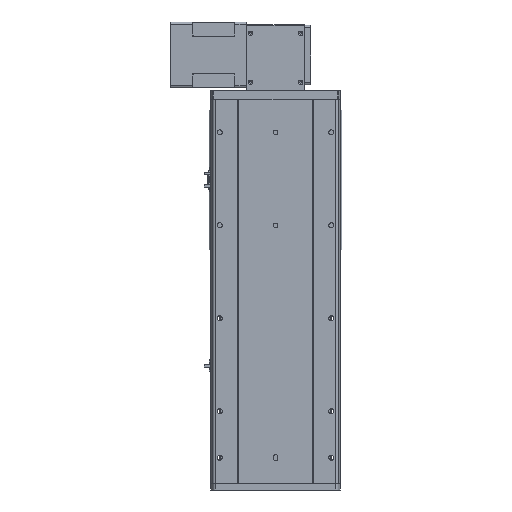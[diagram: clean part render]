
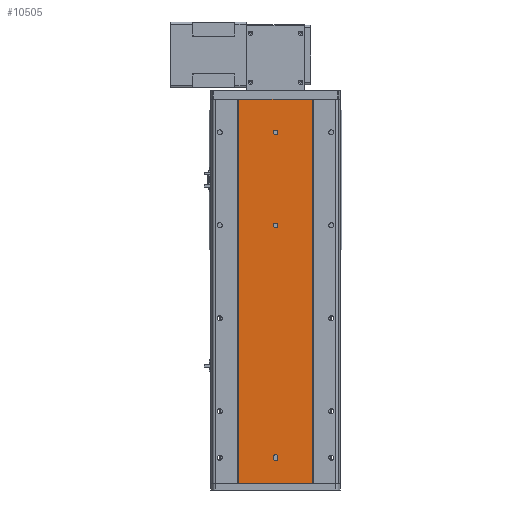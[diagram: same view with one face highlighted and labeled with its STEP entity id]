
A CAD part, front view. The second image highlights one B-rep face of the part: STEP entity #10505.
In plain terms, the highlighted planar face has unit normal (0, -1, 0).
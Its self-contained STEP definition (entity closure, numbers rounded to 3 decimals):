
#61 = AXIS2_PLACEMENT_3D ( 'NONE', #30333, #7291, #23535 ) ;
#295 = ORIENTED_EDGE ( 'NONE', *, *, #37023, .F. ) ;
#1404 = CIRCLE ( 'NONE', #36377, 5. ) ;
#1494 = EDGE_CURVE ( 'NONE', #33665, #7749, #16996, .T. ) ;
#1537 = VERTEX_POINT ( 'NONE', #2617 ) ;
#1868 = CIRCLE ( 'NONE', #61, 5. ) ;
#1980 = ORIENTED_EDGE ( 'NONE', *, *, #42317, .T. ) ;
#2617 = CARTESIAN_POINT ( 'NONE',  ( 79., 1.5, 0. ) ) ;
#2757 = DIRECTION ( 'NONE',  ( 1., 0., 0. ) ) ;
#3981 = VERTEX_POINT ( 'NONE', #22567 ) ;
#4000 = EDGE_CURVE ( 'NONE', #34968, #35473, #4157, .T. ) ;
#4031 = DIRECTION ( 'NONE',  ( 1., 0., 0. ) ) ;
#4045 = CARTESIAN_POINT ( 'NONE',  ( 5., 1.5, -770. ) ) ;
#4157 = CIRCLE ( 'NONE', #5652, 5. ) ;
#4481 = CARTESIAN_POINT ( 'NONE',  ( 0., 1.5, -71.5 ) ) ;
#4707 = LINE ( 'NONE', #14936, #38875 ) ;
#4756 = DIRECTION ( 'NONE',  ( 1., 0., 0. ) ) ;
#5227 = EDGE_LOOP ( 'NONE', ( #37015, #9317 ) ) ;
#5350 = DIRECTION ( 'NONE',  ( 0., 1., 0. ) ) ;
#5652 = AXIS2_PLACEMENT_3D ( 'NONE', #35707, #9329, #38760 ) ;
#5924 = VECTOR ( 'NONE', #32049, 1000. ) ;
#6701 = ORIENTED_EDGE ( 'NONE', *, *, #4000, .T. ) ;
#6834 = DIRECTION ( 'NONE',  ( 0., 0., 1. ) ) ;
#7291 = DIRECTION ( 'NONE',  ( 0., 1., 0. ) ) ;
#7749 = VERTEX_POINT ( 'NONE', #18699 ) ;
#7894 = VERTEX_POINT ( 'NONE', #28714 ) ;
#8093 = VERTEX_POINT ( 'NONE', #27384 ) ;
#8199 = LINE ( 'NONE', #36664, #24828 ) ;
#8438 = CARTESIAN_POINT ( 'NONE',  ( 5., 1.5, -827. ) ) ;
#9317 = ORIENTED_EDGE ( 'NONE', *, *, #37981, .T. ) ;
#9329 = DIRECTION ( 'NONE',  ( 0., 1., 0. ) ) ;
#9711 = AXIS2_PLACEMENT_3D ( 'NONE', #38654, #32574, #2757 ) ;
#10417 = PLANE ( 'NONE',  #16037 ) ;
#10505 = ADVANCED_FACE ( 'NONE', ( #18602, #31565, #40379, #34137 ), #10417, .T. ) ;
#11296 = DIRECTION ( 'NONE',  ( 1., 0., 0. ) ) ;
#11461 = CARTESIAN_POINT ( 'NONE',  ( 0., 1.5, -76.5 ) ) ;
#12578 = EDGE_LOOP ( 'NONE', ( #18465, #13493 ) ) ;
#13243 = LINE ( 'NONE', #35141, #36037 ) ;
#13493 = ORIENTED_EDGE ( 'NONE', *, *, #32616, .T. ) ;
#14842 = EDGE_CURVE ( 'NONE', #7894, #25436, #21350, .T. ) ;
#14936 = CARTESIAN_POINT ( 'NONE',  ( -79., 1.5, 0. ) ) ;
#14942 = EDGE_LOOP ( 'NONE', ( #295, #24077, #28244, #1980 ) ) ;
#15209 = CARTESIAN_POINT ( 'NONE',  ( 0., 1.5, -773. ) ) ;
#16037 = AXIS2_PLACEMENT_3D ( 'NONE', #37069, #33592, #36918 ) ;
#16128 = CARTESIAN_POINT ( 'NONE',  ( 5., 1.5, -773. ) ) ;
#16216 = CARTESIAN_POINT ( 'NONE',  ( 0., 1.5, -778. ) ) ;
#16530 = VERTEX_POINT ( 'NONE', #27700 ) ;
#16996 = CIRCLE ( 'NONE', #9711, 5. ) ;
#17372 = VECTOR ( 'NONE', #6834, 1000. ) ;
#17476 = CARTESIAN_POINT ( 'NONE',  ( 0., 1.5, -271.5 ) ) ;
#17901 = LINE ( 'NONE', #20033, #17372 ) ;
#18465 = ORIENTED_EDGE ( 'NONE', *, *, #1494, .T. ) ;
#18559 = AXIS2_PLACEMENT_3D ( 'NONE', #17476, #27759, #4031 ) ;
#18602 = FACE_BOUND ( 'NONE', #12578, .T. ) ;
#18699 = CARTESIAN_POINT ( 'NONE',  ( 0., 1.5, -66.5 ) ) ;
#19048 = EDGE_CURVE ( 'NONE', #8093, #41696, #8199, .T. ) ;
#20033 = CARTESIAN_POINT ( 'NONE',  ( -79., 1.5, -827. ) ) ;
#20150 = EDGE_CURVE ( 'NONE', #8093, #20330, #17901, .T. ) ;
#20330 = VERTEX_POINT ( 'NONE', #34171 ) ;
#21350 = CIRCLE ( 'NONE', #29769, 5. ) ;
#21480 = LINE ( 'NONE', #38213, #34924 ) ;
#22567 = CARTESIAN_POINT ( 'NONE',  ( 0., 1.5, -276.5 ) ) ;
#23535 = DIRECTION ( 'NONE',  ( 1., 0., 0. ) ) ;
#24077 = ORIENTED_EDGE ( 'NONE', *, *, #20150, .F. ) ;
#24356 = CIRCLE ( 'NONE', #18559, 5. ) ;
#24828 = VECTOR ( 'NONE', #36804, 1000. ) ;
#24920 = ORIENTED_EDGE ( 'NONE', *, *, #26289, .T. ) ;
#24929 = DIRECTION ( 'NONE',  ( 0., 1., 0. ) ) ;
#25436 = VERTEX_POINT ( 'NONE', #4045 ) ;
#25929 = CARTESIAN_POINT ( 'NONE',  ( -5., 1.5, -773. ) ) ;
#26254 = AXIS2_PLACEMENT_3D ( 'NONE', #15209, #5350, #28090 ) ;
#26289 = EDGE_CURVE ( 'NONE', #25436, #34968, #30765, .T. ) ;
#27384 = CARTESIAN_POINT ( 'NONE',  ( -79., 1.5, -827. ) ) ;
#27700 = CARTESIAN_POINT ( 'NONE',  ( 0., 1.5, -266.5 ) ) ;
#27759 = DIRECTION ( 'NONE',  ( 0., 1., 0. ) ) ;
#27849 = EDGE_LOOP ( 'NONE', ( #42531, #28802, #24920, #6701, #30804 ) ) ;
#28090 = DIRECTION ( 'NONE',  ( 1., 0., 0. ) ) ;
#28244 = ORIENTED_EDGE ( 'NONE', *, *, #19048, .T. ) ;
#28591 = CARTESIAN_POINT ( 'NONE',  ( 79., 1.5, -827. ) ) ;
#28714 = CARTESIAN_POINT ( 'NONE',  ( -5., 1.5, -770. ) ) ;
#28802 = ORIENTED_EDGE ( 'NONE', *, *, #14842, .T. ) ;
#29769 = AXIS2_PLACEMENT_3D ( 'NONE', #31414, #24929, #11296 ) ;
#30333 = CARTESIAN_POINT ( 'NONE',  ( 0., 1.5, -271.5 ) ) ;
#30765 = LINE ( 'NONE', #8438, #5924 ) ;
#30804 = ORIENTED_EDGE ( 'NONE', *, *, #40385, .T. ) ;
#31309 = EDGE_CURVE ( 'NONE', #3981, #16530, #24356, .T. ) ;
#31414 = CARTESIAN_POINT ( 'NONE',  ( 0., 1.5, -770. ) ) ;
#31565 = FACE_OUTER_BOUND ( 'NONE', #14942, .T. ) ;
#32049 = DIRECTION ( 'NONE',  ( 0., 0., -1. ) ) ;
#32574 = DIRECTION ( 'NONE',  ( 0., 1., 0. ) ) ;
#32616 = EDGE_CURVE ( 'NONE', #7749, #33665, #1404, .T. ) ;
#33592 = DIRECTION ( 'NONE',  ( 0., -1., 0. ) ) ;
#33665 = VERTEX_POINT ( 'NONE', #11461 ) ;
#34137 = FACE_BOUND ( 'NONE', #27849, .T. ) ;
#34171 = CARTESIAN_POINT ( 'NONE',  ( -79., 1.5, 0. ) ) ;
#34924 = VECTOR ( 'NONE', #41597, 1000. ) ;
#34968 = VERTEX_POINT ( 'NONE', #16128 ) ;
#35141 = CARTESIAN_POINT ( 'NONE',  ( -5., 1.5, -827. ) ) ;
#35399 = EDGE_CURVE ( 'NONE', #42386, #7894, #13243, .T. ) ;
#35473 = VERTEX_POINT ( 'NONE', #16216 ) ;
#35707 = CARTESIAN_POINT ( 'NONE',  ( 0., 1.5, -773. ) ) ;
#36037 = VECTOR ( 'NONE', #38472, 1000. ) ;
#36377 = AXIS2_PLACEMENT_3D ( 'NONE', #4481, #40973, #4756 ) ;
#36664 = CARTESIAN_POINT ( 'NONE',  ( -79., 1.5, -827. ) ) ;
#36804 = DIRECTION ( 'NONE',  ( 1., 0., 0. ) ) ;
#36918 = DIRECTION ( 'NONE',  ( 1., 0., 0. ) ) ;
#37015 = ORIENTED_EDGE ( 'NONE', *, *, #31309, .T. ) ;
#37023 = EDGE_CURVE ( 'NONE', #20330, #1537, #4707, .T. ) ;
#37069 = CARTESIAN_POINT ( 'NONE',  ( -79., 1.5, -827. ) ) ;
#37981 = EDGE_CURVE ( 'NONE', #16530, #3981, #1868, .T. ) ;
#38213 = CARTESIAN_POINT ( 'NONE',  ( 79., 1.5, -827. ) ) ;
#38231 = CIRCLE ( 'NONE', #26254, 5. ) ;
#38472 = DIRECTION ( 'NONE',  ( 0., 0., 1. ) ) ;
#38654 = CARTESIAN_POINT ( 'NONE',  ( 0., 1.5, -71.5 ) ) ;
#38760 = DIRECTION ( 'NONE',  ( 1., 0., 0. ) ) ;
#38875 = VECTOR ( 'NONE', #41603, 1000. ) ;
#40379 = FACE_BOUND ( 'NONE', #5227, .T. ) ;
#40385 = EDGE_CURVE ( 'NONE', #35473, #42386, #38231, .T. ) ;
#40973 = DIRECTION ( 'NONE',  ( 0., 1., 0. ) ) ;
#41597 = DIRECTION ( 'NONE',  ( 0., 0., 1. ) ) ;
#41603 = DIRECTION ( 'NONE',  ( 1., 0., 0. ) ) ;
#41696 = VERTEX_POINT ( 'NONE', #28591 ) ;
#42317 = EDGE_CURVE ( 'NONE', #41696, #1537, #21480, .T. ) ;
#42386 = VERTEX_POINT ( 'NONE', #25929 ) ;
#42531 = ORIENTED_EDGE ( 'NONE', *, *, #35399, .T. ) ;
